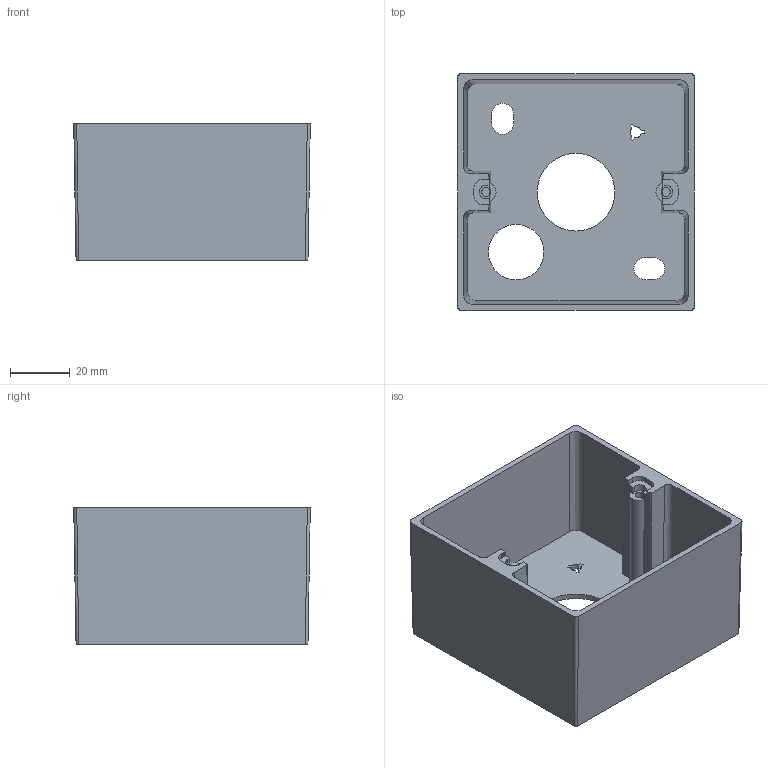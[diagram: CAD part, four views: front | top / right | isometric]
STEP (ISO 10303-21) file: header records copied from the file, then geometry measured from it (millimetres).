
FILE_DESCRIPTION(/* description */ (''),/* implementation_level */ '2;1');
FILE_NAME(/* name */ 'C:\Users\francosartori\Documents\Modelos\01_Digitalizados\0_DART\03_Publicación\70274 - Vista 3D - Export.stp',/* time_stamp */ '2020-06-23T14:04:20+02:00',/* author */ ('FrancoSartori'),/* organization */ (''),/* preprocessor_version */ 'ST-DEVELOPER v18.1',/* originating_system */ 'AutoCAD Mechanical',/* authorisation */ '');
FILE_SCHEMA (('AUTOMOTIVE_DESIGN { 1 0 10303 214 3 1 1 }'));
Length unit declared in the file: millimetre
Products named in the file (2): Product; FamilyGeomCombination_391803-Export
Assembly tree (1 placements, depth 2):
  Product
    FamilyGeomCombination_391803-Export
Bounding box: 79 x 79 x 45.6 mm (x, y, z)
Volume: 1891 mm3; surface area: 40700.2 mm2
Topology: 2 solids, 3 shells, 111 faces, 346 edges, 234 vertices
Faces by surface type: plane 54, cylinder 41, bspline 16
Entity records: 4540 total; most frequent: CARTESIAN_POINT 1446, ORIENTED_EDGE 644, DIRECTION 588, EDGE_CURVE 346, VERTEX_POINT 234, LINE 228, VECTOR 228, AXIS2_PLACEMENT_3D 180
